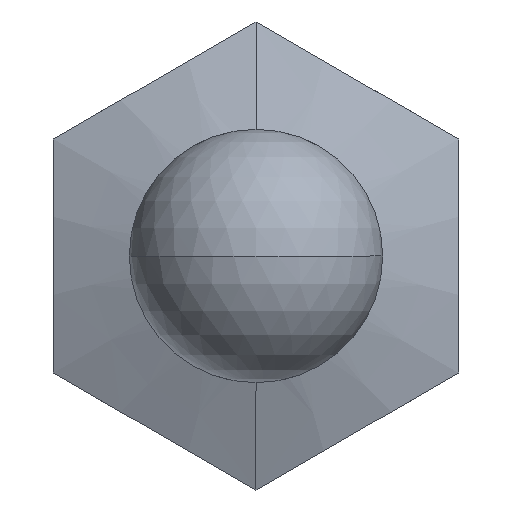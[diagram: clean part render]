
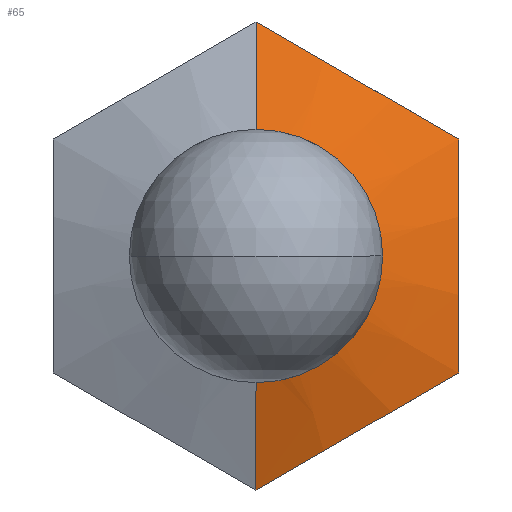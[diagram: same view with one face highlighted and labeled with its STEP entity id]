
A CAD part, front view. The second image highlights one B-rep face of the part: STEP entity #65.
In plain terms, the highlighted conical face has half-angle 70 degrees and reference radius 13.9 mm.
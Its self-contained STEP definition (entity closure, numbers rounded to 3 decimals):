
#65=ADVANCED_FACE('NONE',(#154),#155,.T.);
#154=FACE_OUTER_BOUND('',#265,.T.);
#155=CONICAL_SURFACE('',#266,13.9,1.222);
#265=EDGE_LOOP('',(#384,#385,#386,#387,#388,#389));
#266=AXIS2_PLACEMENT_3D('',#390,#391,#392);
#384=ORIENTED_EDGE('',*,*,#670,.T.);
#385=ORIENTED_EDGE('',*,*,#671,.T.);
#386=ORIENTED_EDGE('',*,*,#672,.T.);
#387=ORIENTED_EDGE('',*,*,#673,.T.);
#388=ORIENTED_EDGE('',*,*,#674,.T.);
#389=ORIENTED_EDGE('',*,*,#675,.F.);
#390=CARTESIAN_POINT('',(0.0,-7.625,0.0));
#391=DIRECTION('',(-0.0,1.0,-0.0));
#392=DIRECTION('',(0.0,0.0,1.0));
#670=EDGE_CURVE('NONE',#793,#794,#795,.T.);
#671=EDGE_CURVE('NONE',#794,#796,#797,.T.);
#672=EDGE_CURVE('NONE',#796,#798,#799,.T.);
#673=EDGE_CURVE('NONE',#798,#800,#801,.T.);
#674=EDGE_CURVE('NONE',#800,#802,#803,.T.);
#675=EDGE_CURVE('NONE',#793,#802,#804,.T.);
#793=VERTEX_POINT('NONE',#963);
#794=VERTEX_POINT('NONE',#964);
#795=CIRCLE('',#965,6.);
#796=VERTEX_POINT('NONE',#966);
#797=LINE('',#967,#968);
#798=VERTEX_POINT('NONE',#969);
#799=B_SPLINE_CURVE_WITH_KNOTS('',3,(#970,#971,#972,#973,#974,#975,#976,#977,#978),.UNSPECIFIED.,.F.,.F.,(4,2,1,2,4),(0.,0.003,0.007,0.01,0.014),.UNSPECIFIED.);
#800=VERTEX_POINT('NONE',#979);
#801=B_SPLINE_CURVE_WITH_KNOTS('',3,(#980,#981,#982,#983,#984,#985,#986,#987,#988,#989),.UNSPECIFIED.,.F.,.F.,(4,2,2,2,4),(0.012,0.015,0.019,0.022,0.026),.UNSPECIFIED.);
#802=VERTEX_POINT('NONE',#990);
#803=B_SPLINE_CURVE_WITH_KNOTS('',3,(#991,#992,#993,#994,#995,#996,#997,#998,#999),.UNSPECIFIED.,.F.,.F.,(4,2,1,2,4),(0.,0.003,0.007,0.01,0.014),.UNSPECIFIED.);
#804=LINE('',#1000,#1001);
#963=CARTESIAN_POINT('',(0.0,-10.5,6.));
#964=CARTESIAN_POINT('',(0.,-10.5,-6.));
#965=AXIS2_PLACEMENT_3D('',#1262,#1263,#1264);
#966=CARTESIAN_POINT('',(0.,-7.641,-13.856));
#967=CARTESIAN_POINT('',(0.,-7.625,-13.9));
#968=VECTOR('',#1265,1000.0);
#969=CARTESIAN_POINT('',(12.0,-7.641,-6.928));
#970=CARTESIAN_POINT('',(0.,-7.641,-13.856));
#971=CARTESIAN_POINT('',(1.,-7.851,-13.279));
#972=CARTESIAN_POINT('',(2.0,-8.021,-12.702));
#973=CARTESIAN_POINT('',(4.0,-8.254,-11.547));
#974=CARTESIAN_POINT('',(6.0,-8.378,-10.392));
#975=CARTESIAN_POINT('',(8.0,-8.254,-9.238));
#976=CARTESIAN_POINT('',(10.0,-8.021,-8.083));
#977=CARTESIAN_POINT('',(11.0,-7.851,-7.506));
#978=CARTESIAN_POINT('',(12.0,-7.641,-6.928));
#979=CARTESIAN_POINT('',(12.0,-7.641,6.928));
#980=CARTESIAN_POINT('',(12.0,-7.641,-6.928));
#981=CARTESIAN_POINT('',(12.0,-7.85,-5.78));
#982=CARTESIAN_POINT('',(12.0,-8.021,-4.618));
#983=CARTESIAN_POINT('',(12.0,-8.255,-2.301));
#984=CARTESIAN_POINT('',(12.0,-8.317,-1.145));
#985=CARTESIAN_POINT('',(12.0,-8.316,1.167));
#986=CARTESIAN_POINT('',(12.0,-8.254,2.321));
#987=CARTESIAN_POINT('',(12.0,-8.02,4.626));
#988=CARTESIAN_POINT('',(12.0,-7.85,5.778));
#989=CARTESIAN_POINT('',(12.0,-7.641,6.928));
#990=CARTESIAN_POINT('',(0.,-7.641,13.856));
#991=CARTESIAN_POINT('',(12.0,-7.641,6.928));
#992=CARTESIAN_POINT('',(11.0,-7.851,7.506));
#993=CARTESIAN_POINT('',(10.0,-8.021,8.083));
#994=CARTESIAN_POINT('',(8.0,-8.254,9.238));
#995=CARTESIAN_POINT('',(6.0,-8.378,10.392));
#996=CARTESIAN_POINT('',(4.0,-8.254,11.547));
#997=CARTESIAN_POINT('',(2.0,-8.021,12.702));
#998=CARTESIAN_POINT('',(1.0,-7.851,13.279));
#999=CARTESIAN_POINT('',(0.,-7.641,13.856));
#1000=CARTESIAN_POINT('',(0.0,-7.625,13.9));
#1001=VECTOR('',#1266,1000.0);
#1262=CARTESIAN_POINT('',(0.0,-10.5,0.0));
#1263=DIRECTION('',(-0.0,1.0,0.0));
#1264=DIRECTION('',(0.0,0.0,1.0));
#1265=DIRECTION('',(0.,0.342,-0.94));
#1266=DIRECTION('',(0.0,0.342,0.94));
